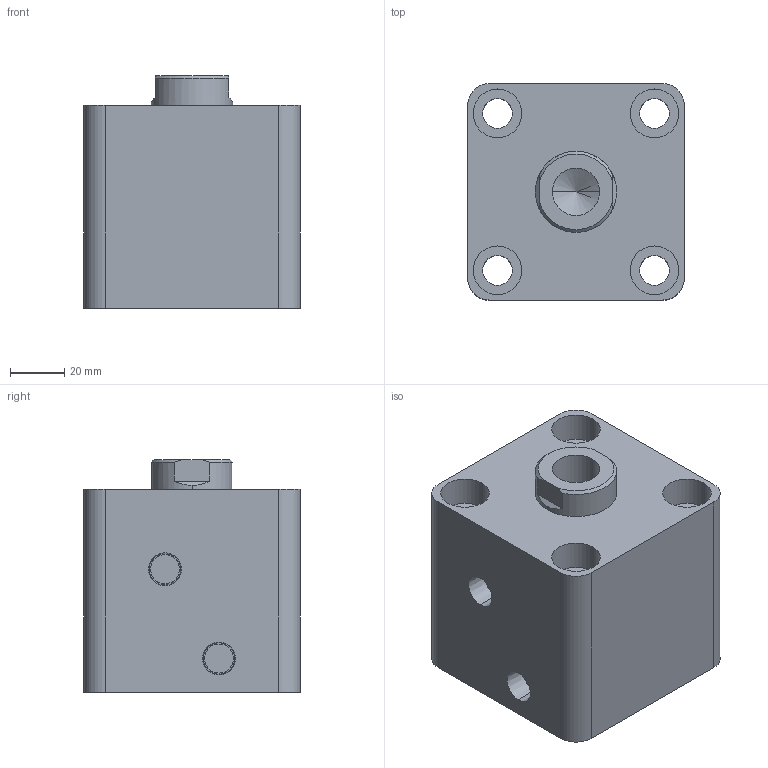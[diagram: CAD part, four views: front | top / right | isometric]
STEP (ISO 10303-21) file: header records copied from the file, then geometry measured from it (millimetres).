
FILE_DESCRIPTION (( 'STEP AP203' ), '1' );
FILE_NAME ('HTB-SD50-15N.STEP', '2019-10-07T07:06:24', ( '微软用户' ), ( '微软中国' ), 'SwSTEP 2.0', 'SolidWorks 2012', '' );
FILE_SCHEMA (( 'CONFIG_CONTROL_DESIGN' ));
Length unit declared in the file: millimetre
Products named in the file (3): HTB-SD50-15N活塞杆; HTB-SD50-15N; HTB-SD50-15掛极
Assembly tree (2 placements, depth 2):
  HTB-SD50-15N
    HTB-SD50-15掛极
    HTB-SD50-15N活塞杆
Bounding box: 80 x 80 x 86 mm (x, y, z)
Volume: 413169.1 mm3; surface area: 72414.4 mm2
Topology: 2 solids, 2 shells, 83 faces, 184 edges, 119 vertices
Faces by surface type: cylinder 42, plane 27, cone 8, torus 6
Entity records: 2655 total; most frequent: DIRECTION 456, CARTESIAN_POINT 417, ORIENTED_EDGE 364, AXIS2_PLACEMENT_3D 194, EDGE_CURVE 182, VERTEX_POINT 119, EDGE_LOOP 107, CIRCLE 106
